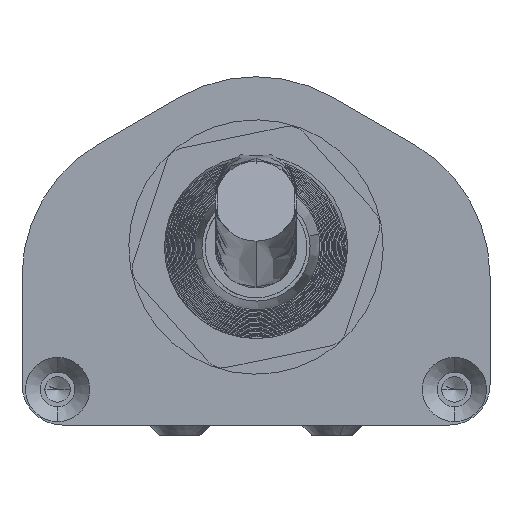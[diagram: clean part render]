
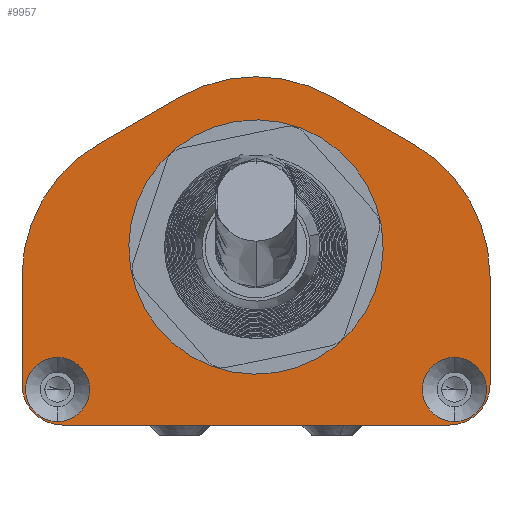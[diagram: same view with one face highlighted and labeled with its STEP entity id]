
A CAD part, front view. The second image highlights one B-rep face of the part: STEP entity #9957.
In plain terms, the highlighted planar face has unit normal (0, -1, 0).
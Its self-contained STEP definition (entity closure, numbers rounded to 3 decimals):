
#347 = DIRECTION ( 'NONE',  ( 0., 0., -1. ) ) ;
#781 = LINE ( 'NONE', #31224, #48179 ) ;
#853 = CARTESIAN_POINT ( 'NONE',  ( -23., -163.1, -7.381 ) ) ;
#1241 = DIRECTION ( 'NONE',  ( 0., -1., 0. ) ) ;
#1563 = DIRECTION ( 'NONE',  ( 0., -1., 0. ) ) ;
#1617 = EDGE_CURVE ( 'NONE', #39387, #54581, #48229, .T. ) ;
#2764 = LINE ( 'NONE', #22328, #6080 ) ;
#3336 = CARTESIAN_POINT ( 'NONE',  ( -7.5, -163.1, 10.228 ) ) ;
#3411 = EDGE_CURVE ( 'NONE', #15054, #38559, #27810, .T. ) ;
#4166 = CARTESIAN_POINT ( 'NONE',  ( -23., -163.1, 1.279 ) ) ;
#4455 = AXIS2_PLACEMENT_3D ( 'NONE', #29220, #44262, #347 ) ;
#4996 = VERTEX_POINT ( 'NONE', #37211 ) ;
#6045 = AXIS2_PLACEMENT_3D ( 'NONE', #60079, #16480, #26101 ) ;
#6080 = VECTOR ( 'NONE', #41262, 1000. ) ;
#6691 = DIRECTION ( 'NONE',  ( 0., 0., -1. ) ) ;
#7363 = EDGE_CURVE ( 'NONE', #45601, #47751, #30625, .T. ) ;
#8047 = EDGE_CURVE ( 'NONE', #33067, #36218, #33701, .T. ) ;
#8528 = VECTOR ( 'NONE', #62864, 1000. ) ;
#8748 = EDGE_CURVE ( 'NONE', #33067, #20469, #2764, .T. ) ;
#8929 = EDGE_LOOP ( 'NONE', ( #43370, #14440, #22781, #22160, #9028, #62509, #41693, #38197, #14459, #43695 ) ) ;
#9028 = ORIENTED_EDGE ( 'NONE', *, *, #36305, .T. ) ;
#9565 = DIRECTION ( 'NONE',  ( 0., -1., 0. ) ) ;
#9655 = FACE_BOUND ( 'NONE', #43551, .T. ) ;
#9738 = CARTESIAN_POINT ( 'NONE',  ( 19.5, -163.1, -15.35 ) ) ;
#9758 = EDGE_CURVE ( 'NONE', #19402, #20469, #24911, .T. ) ;
#9957 = ADVANCED_FACE ( 'NONE', ( #39160, #9655, #33721 ), #49064, .F. ) ;
#13650 = AXIS2_PLACEMENT_3D ( 'NONE', #47155, #62221, #58071 ) ;
#14211 = DIRECTION ( 'NONE',  ( 0., -1., 0. ) ) ;
#14440 = ORIENTED_EDGE ( 'NONE', *, *, #3411, .T. ) ;
#14459 = ORIENTED_EDGE ( 'NONE', *, *, #16741, .F. ) ;
#14693 = CARTESIAN_POINT ( 'NONE',  ( -19., -163.1, -18. ) ) ;
#15054 = VERTEX_POINT ( 'NONE', #35486 ) ;
#15078 = CARTESIAN_POINT ( 'NONE',  ( -19.5, -163.1, -18.5 ) ) ;
#15138 = ORIENTED_EDGE ( 'NONE', *, *, #7363, .F. ) ;
#16480 = DIRECTION ( 'NONE',  ( 0., -1., 0. ) ) ;
#16728 = VERTEX_POINT ( 'NONE', #54642 ) ;
#16741 = EDGE_CURVE ( 'NONE', #39387, #36218, #781, .T. ) ;
#17961 = DIRECTION ( 'NONE',  ( 0.866, 0., 0.5 ) ) ;
#18004 = CARTESIAN_POINT ( 'NONE',  ( 15.5, -163.1, 5.609 ) ) ;
#18960 = LINE ( 'NONE', #23127, #8528 ) ;
#19087 = CIRCLE ( 'NONE', #49795, 3.15 ) ;
#19402 = VERTEX_POINT ( 'NONE', #49681 ) ;
#19652 = DIRECTION ( 'NONE',  ( 0., -1., 0. ) ) ;
#20188 = CARTESIAN_POINT ( 'NONE',  ( 19.5, -163.1, -18.5 ) ) ;
#20214 = EDGE_CURVE ( 'NONE', #15054, #54581, #48087, .T. ) ;
#20469 = VERTEX_POINT ( 'NONE', #46454 ) ;
#22160 = ORIENTED_EDGE ( 'NONE', *, *, #46183, .T. ) ;
#22321 = LINE ( 'NONE', #42195, #52950 ) ;
#22328 = CARTESIAN_POINT ( 'NONE',  ( 23., -163.1, 1.279 ) ) ;
#22748 = ORIENTED_EDGE ( 'NONE', *, *, #50915, .F. ) ;
#22781 = ORIENTED_EDGE ( 'NONE', *, *, #49204, .F. ) ;
#22833 = CARTESIAN_POINT ( 'NONE',  ( 0., -163.1, -2.762 ) ) ;
#23127 = CARTESIAN_POINT ( 'NONE',  ( 0., -163.1, -22. ) ) ;
#24911 = CIRCLE ( 'NONE', #13650, 4. ) ;
#25073 = VERTEX_POINT ( 'NONE', #43299 ) ;
#25189 = EDGE_CURVE ( 'NONE', #25073, #16728, #48577, .T. ) ;
#25716 = CARTESIAN_POINT ( 'NONE',  ( -19., -163.1, -22. ) ) ;
#26101 = DIRECTION ( 'NONE',  ( 0., 0., -1. ) ) ;
#26686 = CARTESIAN_POINT ( 'NONE',  ( 23., -163.1, -7.381 ) ) ;
#27810 = CIRCLE ( 'NONE', #51364, 15. ) ;
#28003 = DIRECTION ( 'NONE',  ( 0., 0., 1. ) ) ;
#29220 = CARTESIAN_POINT ( 'NONE',  ( 0., -163.1, -12. ) ) ;
#29904 = CARTESIAN_POINT ( 'NONE',  ( 19.5, -163.1, -21.65 ) ) ;
#29970 = DIRECTION ( 'NONE',  ( 0.866, 0., -0.5 ) ) ;
#30451 = CIRCLE ( 'NONE', #44765, 3.15 ) ;
#30625 = CIRCLE ( 'NONE', #62357, 3.15 ) ;
#31224 = CARTESIAN_POINT ( 'NONE',  ( 0., -163.1, 14.558 ) ) ;
#33067 = VERTEX_POINT ( 'NONE', #26686 ) ;
#33701 = CIRCLE ( 'NONE', #6045, 15. ) ;
#33721 = FACE_OUTER_BOUND ( 'NONE', #8929, .T. ) ;
#33728 = VECTOR ( 'NONE', #17961, 1000. ) ;
#34116 = DIRECTION ( 'NONE',  ( 0., 0., 1. ) ) ;
#34271 = DIRECTION ( 'NONE',  ( 0., 0., -1. ) ) ;
#34651 = DIRECTION ( 'NONE',  ( 0., -1., 0. ) ) ;
#35486 = CARTESIAN_POINT ( 'NONE',  ( -15.5, -163.1, 5.609 ) ) ;
#36218 = VERTEX_POINT ( 'NONE', #18004 ) ;
#36305 = EDGE_CURVE ( 'NONE', #49715, #19402, #18960, .T. ) ;
#36451 = CIRCLE ( 'NONE', #60985, 4. ) ;
#36465 = DIRECTION ( 'NONE',  ( 0., 0., 1. ) ) ;
#37211 = CARTESIAN_POINT ( 'NONE',  ( -23., -163.1, -18. ) ) ;
#37946 = CARTESIAN_POINT ( 'NONE',  ( -19.5, -163.1, -18.5 ) ) ;
#38197 = ORIENTED_EDGE ( 'NONE', *, *, #8047, .T. ) ;
#38559 = VERTEX_POINT ( 'NONE', #853 ) ;
#39160 = FACE_BOUND ( 'NONE', #47552, .T. ) ;
#39208 = ORIENTED_EDGE ( 'NONE', *, *, #25189, .F. ) ;
#39387 = VERTEX_POINT ( 'NONE', #53611 ) ;
#39768 = DIRECTION ( 'NONE',  ( 0., 0., 1. ) ) ;
#41262 = DIRECTION ( 'NONE',  ( 0., 0., -1. ) ) ;
#41693 = ORIENTED_EDGE ( 'NONE', *, *, #8748, .F. ) ;
#41776 = DIRECTION ( 'NONE',  ( 0., -1., 0. ) ) ;
#42195 = CARTESIAN_POINT ( 'NONE',  ( -23., -163.1, -25.279 ) ) ;
#43299 = CARTESIAN_POINT ( 'NONE',  ( -19.5, -163.1, -15.35 ) ) ;
#43370 = ORIENTED_EDGE ( 'NONE', *, *, #20214, .F. ) ;
#43551 = EDGE_LOOP ( 'NONE', ( #22748, #15138 ) ) ;
#43695 = ORIENTED_EDGE ( 'NONE', *, *, #1617, .T. ) ;
#44262 = DIRECTION ( 'NONE',  ( 0., 1., 0. ) ) ;
#44765 = AXIS2_PLACEMENT_3D ( 'NONE', #37946, #14211, #28003 ) ;
#45512 = AXIS2_PLACEMENT_3D ( 'NONE', #15078, #34651, #54187 ) ;
#45601 = VERTEX_POINT ( 'NONE', #29904 ) ;
#46183 = EDGE_CURVE ( 'NONE', #4996, #49715, #36451, .T. ) ;
#46454 = CARTESIAN_POINT ( 'NONE',  ( 23., -163.1, -18. ) ) ;
#47155 = CARTESIAN_POINT ( 'NONE',  ( 19., -163.1, -18. ) ) ;
#47552 = EDGE_LOOP ( 'NONE', ( #39208, #60455 ) ) ;
#47751 = VERTEX_POINT ( 'NONE', #9738 ) ;
#47839 = DIRECTION ( 'NONE',  ( 0., 0., -1. ) ) ;
#48087 = LINE ( 'NONE', #4166, #33728 ) ;
#48179 = VECTOR ( 'NONE', #29970, 1000. ) ;
#48229 = CIRCLE ( 'NONE', #54416, 15. ) ;
#48577 = CIRCLE ( 'NONE', #45512, 3.15 ) ;
#49064 = PLANE ( 'NONE',  #4455 ) ;
#49204 = EDGE_CURVE ( 'NONE', #4996, #38559, #22321, .T. ) ;
#49681 = CARTESIAN_POINT ( 'NONE',  ( 19., -163.1, -22. ) ) ;
#49700 = EDGE_CURVE ( 'NONE', #16728, #25073, #30451, .T. ) ;
#49715 = VERTEX_POINT ( 'NONE', #25716 ) ;
#49795 = AXIS2_PLACEMENT_3D ( 'NONE', #58452, #19652, #34116 ) ;
#50604 = CARTESIAN_POINT ( 'NONE',  ( -8., -163.1, -7.381 ) ) ;
#50915 = EDGE_CURVE ( 'NONE', #47751, #45601, #19087, .T. ) ;
#51364 = AXIS2_PLACEMENT_3D ( 'NONE', #50604, #1241, #6691 ) ;
#52950 = VECTOR ( 'NONE', #36465, 1000. ) ;
#53611 = CARTESIAN_POINT ( 'NONE',  ( 7.5, -163.1, 10.228 ) ) ;
#54187 = DIRECTION ( 'NONE',  ( 0., 0., 1. ) ) ;
#54416 = AXIS2_PLACEMENT_3D ( 'NONE', #22833, #41776, #47839 ) ;
#54581 = VERTEX_POINT ( 'NONE', #3336 ) ;
#54642 = CARTESIAN_POINT ( 'NONE',  ( -19.5, -163.1, -21.65 ) ) ;
#58071 = DIRECTION ( 'NONE',  ( 0., 0., -1. ) ) ;
#58452 = CARTESIAN_POINT ( 'NONE',  ( 19.5, -163.1, -18.5 ) ) ;
#60079 = CARTESIAN_POINT ( 'NONE',  ( 8., -163.1, -7.381 ) ) ;
#60455 = ORIENTED_EDGE ( 'NONE', *, *, #49700, .F. ) ;
#60985 = AXIS2_PLACEMENT_3D ( 'NONE', #14693, #9565, #34271 ) ;
#62221 = DIRECTION ( 'NONE',  ( 0., -1., 0. ) ) ;
#62357 = AXIS2_PLACEMENT_3D ( 'NONE', #20188, #1563, #39768 ) ;
#62509 = ORIENTED_EDGE ( 'NONE', *, *, #9758, .T. ) ;
#62864 = DIRECTION ( 'NONE',  ( 1., 0., 0. ) ) ;
